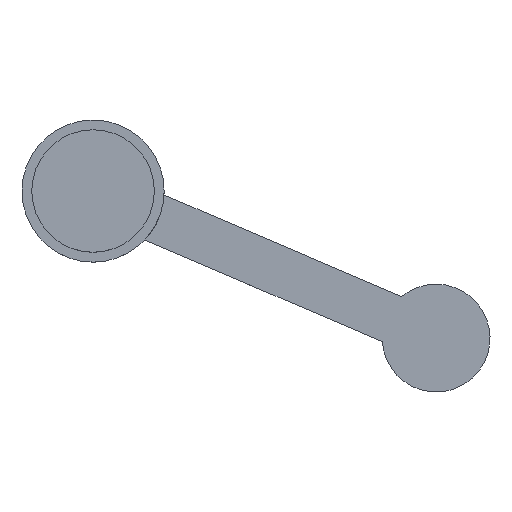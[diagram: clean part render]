
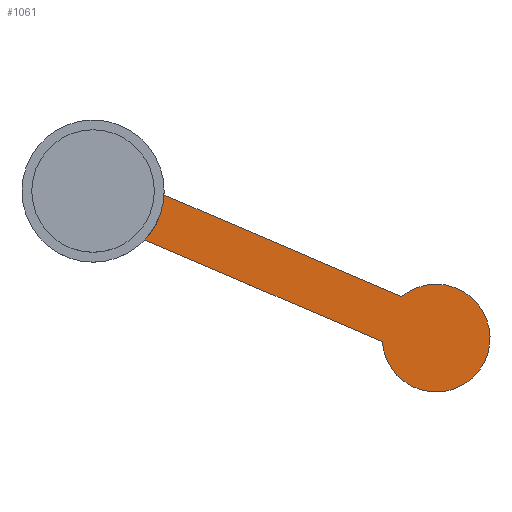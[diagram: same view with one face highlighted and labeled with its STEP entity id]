
A CAD part, top view. The second image highlights one B-rep face of the part: STEP entity #1061.
In plain terms, the highlighted planar face has unit normal (0, 0, 1).
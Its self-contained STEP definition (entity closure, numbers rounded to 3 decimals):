
#1061 = ADVANCED_FACE('',(#1062),#1076,.T.);
#1062 = FACE_BOUND('',#1063,.T.);
#1063 = EDGE_LOOP('',(#1064,#1099,#1128,#1156));
#1064 = ORIENTED_EDGE('',*,*,#1065,.F.);
#1065 = EDGE_CURVE('',#1066,#1068,#1070,.T.);
#1066 = VERTEX_POINT('',#1067);
#1067 = CARTESIAN_POINT('',(2.195,-12.853,11.2));
#1068 = VERTEX_POINT('',#1069);
#1069 = CARTESIAN_POINT('',(12.593,-17.309,11.2));
#1070 = SURFACE_CURVE('',#1071,(#1075,#1087),.PCURVE_S1.);
#1071 = LINE('',#1072,#1073);
#1072 = CARTESIAN_POINT('',(0.394,-12.081,11.2));
#1073 = VECTOR('',#1074,1.);
#1074 = DIRECTION('',(0.919,-0.394,0.));
#1075 = PCURVE('',#1076,#1081);
#1076 = PLANE('',#1077);
#1077 = AXIS2_PLACEMENT_3D('',#1078,#1079,#1080);
#1078 = CARTESIAN_POINT('',(-0.394,-13.919,11.2));
#1079 = DIRECTION('',(0.,0.,1.));
#1080 = DIRECTION('',(0.919,-0.394,0.));
#1081 = DEFINITIONAL_REPRESENTATION('',(#1082),#1086);
#1082 = LINE('',#1083,#1084);
#1083 = CARTESIAN_POINT('',(0.,2.));
#1084 = VECTOR('',#1085,1.);
#1085 = DIRECTION('',(1.,0.));
#1086 = ( GEOMETRIC_REPRESENTATION_CONTEXT(2) 
PARAMETRIC_REPRESENTATION_CONTEXT() REPRESENTATION_CONTEXT('2D SPACE',''
  ) );
#1087 = PCURVE('',#1088,#1093);
#1088 = PLANE('',#1089);
#1089 = AXIS2_PLACEMENT_3D('',#1090,#1091,#1092);
#1090 = CARTESIAN_POINT('',(0.394,-12.081,11.05));
#1091 = DIRECTION('',(0.394,0.919,0.));
#1092 = DIRECTION('',(0.,0.,1.));
#1093 = DEFINITIONAL_REPRESENTATION('',(#1094),#1098);
#1094 = LINE('',#1095,#1096);
#1095 = CARTESIAN_POINT('',(0.15,0.));
#1096 = VECTOR('',#1097,1.);
#1097 = DIRECTION('',(0.,1.));
#1098 = ( GEOMETRIC_REPRESENTATION_CONTEXT(2) 
PARAMETRIC_REPRESENTATION_CONTEXT() REPRESENTATION_CONTEXT('2D SPACE',''
  ) );
#1099 = ORIENTED_EDGE('',*,*,#1100,.T.);
#1100 = EDGE_CURVE('',#1066,#1101,#1103,.T.);
#1101 = VERTEX_POINT('',#1102);
#1102 = CARTESIAN_POINT('',(1.407,-14.691,11.2));
#1103 = SURFACE_CURVE('',#1104,(#1109,#1116),.PCURVE_S1.);
#1104 = CIRCLE('',#1105,2.2);
#1105 = AXIS2_PLACEMENT_3D('',#1106,#1107,#1108);
#1106 = CARTESIAN_POINT('',(0.,-13.,11.2));
#1107 = DIRECTION('',(0.,0.,1.));
#1108 = DIRECTION('',(1.,0.,0.));
#1109 = PCURVE('',#1076,#1110);
#1110 = DEFINITIONAL_REPRESENTATION('',(#1111),#1115);
#1111 = CIRCLE('',#1112,2.2);
#1112 = AXIS2_PLACEMENT_2D('',#1113,#1114);
#1113 = CARTESIAN_POINT('',(0.,1.));
#1114 = DIRECTION('',(0.919,0.394));
#1115 = ( GEOMETRIC_REPRESENTATION_CONTEXT(2) 
PARAMETRIC_REPRESENTATION_CONTEXT() REPRESENTATION_CONTEXT('2D SPACE',''
  ) );
#1116 = PCURVE('',#1117,#1122);
#1117 = CYLINDRICAL_SURFACE('',#1118,2.2);
#1118 = AXIS2_PLACEMENT_3D('',#1119,#1120,#1121);
#1119 = CARTESIAN_POINT('',(0.,-13.,11.05));
#1120 = DIRECTION('',(-0.,-0.,-1.));
#1121 = DIRECTION('',(1.,0.,0.));
#1122 = DEFINITIONAL_REPRESENTATION('',(#1123),#1127);
#1123 = LINE('',#1124,#1125);
#1124 = CARTESIAN_POINT('',(-0.,-0.15));
#1125 = VECTOR('',#1126,1.);
#1126 = DIRECTION('',(-1.,0.));
#1127 = ( GEOMETRIC_REPRESENTATION_CONTEXT(2) 
PARAMETRIC_REPRESENTATION_CONTEXT() REPRESENTATION_CONTEXT('2D SPACE',''
  ) );
#1128 = ORIENTED_EDGE('',*,*,#1129,.T.);
#1129 = EDGE_CURVE('',#1101,#1130,#1132,.T.);
#1130 = VERTEX_POINT('',#1131);
#1131 = CARTESIAN_POINT('',(11.805,-19.147,11.2));
#1132 = SURFACE_CURVE('',#1133,(#1137,#1144),.PCURVE_S1.);
#1133 = LINE('',#1134,#1135);
#1134 = CARTESIAN_POINT('',(-0.394,-13.919,11.2));
#1135 = VECTOR('',#1136,1.);
#1136 = DIRECTION('',(0.919,-0.394,0.));
#1137 = PCURVE('',#1076,#1138);
#1138 = DEFINITIONAL_REPRESENTATION('',(#1139),#1143);
#1139 = LINE('',#1140,#1141);
#1140 = CARTESIAN_POINT('',(0.,0.));
#1141 = VECTOR('',#1142,1.);
#1142 = DIRECTION('',(1.,0.));
#1143 = ( GEOMETRIC_REPRESENTATION_CONTEXT(2) 
PARAMETRIC_REPRESENTATION_CONTEXT() REPRESENTATION_CONTEXT('2D SPACE',''
  ) );
#1144 = PCURVE('',#1145,#1150);
#1145 = PLANE('',#1146);
#1146 = AXIS2_PLACEMENT_3D('',#1147,#1148,#1149);
#1147 = CARTESIAN_POINT('',(-0.394,-13.919,11.05));
#1148 = DIRECTION('',(0.394,0.919,0.));
#1149 = DIRECTION('',(0.,0.,1.));
#1150 = DEFINITIONAL_REPRESENTATION('',(#1151),#1155);
#1151 = LINE('',#1152,#1153);
#1152 = CARTESIAN_POINT('',(0.15,0.));
#1153 = VECTOR('',#1154,1.);
#1154 = DIRECTION('',(0.,1.));
#1155 = ( GEOMETRIC_REPRESENTATION_CONTEXT(2) 
PARAMETRIC_REPRESENTATION_CONTEXT() REPRESENTATION_CONTEXT('2D SPACE',''
  ) );
#1156 = ORIENTED_EDGE('',*,*,#1157,.T.);
#1157 = EDGE_CURVE('',#1130,#1068,#1158,.T.);
#1158 = SURFACE_CURVE('',#1159,(#1164,#1171),.PCURVE_S1.);
#1159 = CIRCLE('',#1160,2.2);
#1160 = AXIS2_PLACEMENT_3D('',#1161,#1162,#1163);
#1161 = CARTESIAN_POINT('',(14.,-19.,11.2));
#1162 = DIRECTION('',(0.,0.,1.));
#1163 = DIRECTION('',(-0.998,-0.067,0.));
#1164 = PCURVE('',#1076,#1165);
#1165 = DEFINITIONAL_REPRESENTATION('',(#1166),#1170);
#1166 = CIRCLE('',#1167,2.2);
#1167 = AXIS2_PLACEMENT_2D('',#1168,#1169);
#1168 = CARTESIAN_POINT('',(15.232,1.));
#1169 = DIRECTION('',(-0.891,-0.455));
#1170 = ( GEOMETRIC_REPRESENTATION_CONTEXT(2) 
PARAMETRIC_REPRESENTATION_CONTEXT() REPRESENTATION_CONTEXT('2D SPACE',''
  ) );
#1171 = PCURVE('',#1172,#1177);
#1172 = CYLINDRICAL_SURFACE('',#1173,2.2);
#1173 = AXIS2_PLACEMENT_3D('',#1174,#1175,#1176);
#1174 = CARTESIAN_POINT('',(14.,-19.,11.05));
#1175 = DIRECTION('',(-0.,-0.,-1.));
#1176 = DIRECTION('',(1.,0.,0.));
#1177 = DEFINITIONAL_REPRESENTATION('',(#1178),#1182);
#1178 = LINE('',#1179,#1180);
#1179 = CARTESIAN_POINT('',(-3.209,-0.15));
#1180 = VECTOR('',#1181,1.);
#1181 = DIRECTION('',(-1.,0.));
#1182 = ( GEOMETRIC_REPRESENTATION_CONTEXT(2) 
PARAMETRIC_REPRESENTATION_CONTEXT() REPRESENTATION_CONTEXT('2D SPACE',''
  ) );
